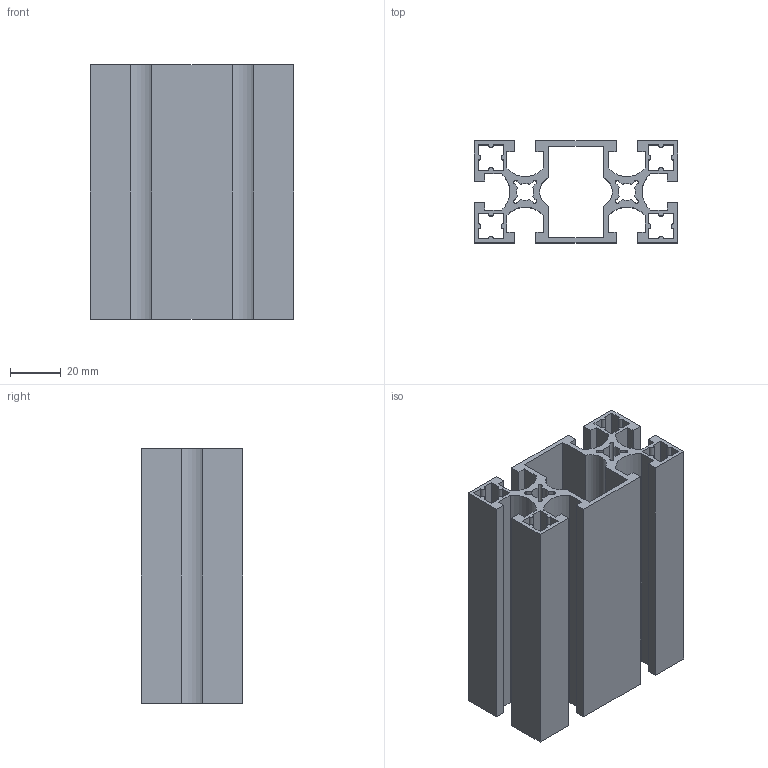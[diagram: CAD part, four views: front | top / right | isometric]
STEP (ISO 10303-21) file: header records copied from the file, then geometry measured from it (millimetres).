
FILE_DESCRIPTION(/* description */ ('Unknown'),/* implementation_level */ '2;1');
FILE_NAME(/* name */ 'NM4080A',/* time_stamp */ '2026-08-31T11:37:59+08:00',/* author */ ('Unknown'),/* organization */ ('Unknown'),/* preprocessor_version */ 'ST-DEVELOPER v16.7',/* originating_system */ 'DEX',/* authorisation */ $);
FILE_SCHEMA (('AUTOMOTIVE_DESIGN {1 0 10303 214 3 1 1}'));
Length unit declared in the file: millimetre
Products named in the file (1): 4080A-
Bounding box: 80 x 40 x 100 mm (x, y, z)
Volume: 90489.3 mm3; surface area: 85179.7 mm2
Topology: 1 solids, 1 shells, 142 faces, 420 edges, 280 vertices
Faces by surface type: plane 102, cylinder 40
Entity records: 4782 total; most frequent: CARTESIAN_POINT 843, ORIENTED_EDGE 840, DIRECTION 786, EDGE_CURVE 420, LINE 340, VECTOR 340, VERTEX_POINT 280, AXIS2_PLACEMENT_3D 223
